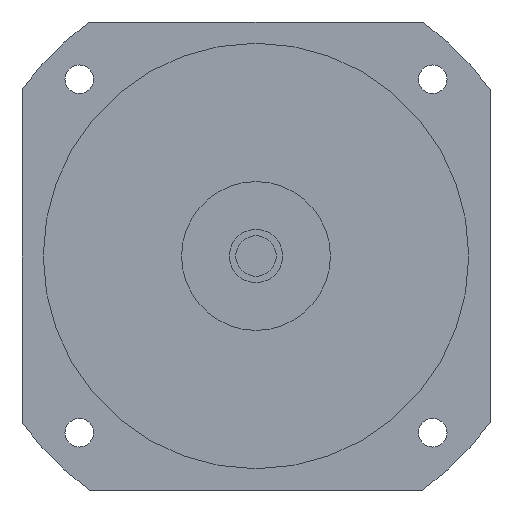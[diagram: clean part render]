
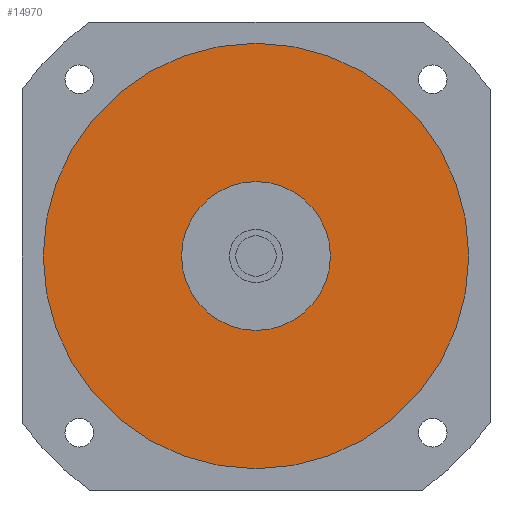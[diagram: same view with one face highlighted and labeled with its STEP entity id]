
A CAD part, left-side view. The second image highlights one B-rep face of the part: STEP entity #14970.
In plain terms, the highlighted planar face has unit normal (-1, 0, 0) as drawn and (0, 0, -1) by its records, which use the part's own axes.
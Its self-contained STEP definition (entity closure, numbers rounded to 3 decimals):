
#14390=CARTESIAN_POINT('',(100.,0.,-54.7));
#14400=VERTEX_POINT('',#14390);
#14490=CARTESIAN_POINT('',(-100.,0.,-54.7));
#14500=VERTEX_POINT('',#14490);
#14530=CARTESIAN_POINT('',(0.,0.,
-54.7));
#14540=DIRECTION('',(0.,0.,1.));
#14550=DIRECTION('',(0.,1.,0.));
#14560=AXIS2_PLACEMENT_3D('',#14530,#14540,#14550);
#14570=CIRCLE('',#14560,100.);
#14580=CARTESIAN_POINT('',(0.,100.,-54.7));
#14590=VERTEX_POINT('',#14580);
#14600=EDGE_CURVE('',#14590,#14500,#14570,.T.);
#14620=EDGE_CURVE('',#14400,#14590,#14570,.T.);
#14670=CARTESIAN_POINT('',(0.,0.,
-54.7));
#14680=DIRECTION('',(0.,0.,1.));
#14690=DIRECTION('',(-1.,0.,0.));
#14700=AXIS2_PLACEMENT_3D('',#14670,#14680,#14690);
#14710=PLANE('',#14700);
#14720=CARTESIAN_POINT('',(0.,0.,
-54.7));
#14730=DIRECTION('',(0.,0.,1.));
#14740=DIRECTION('',(0.,1.,0.));
#14750=AXIS2_PLACEMENT_3D('',#14720,#14730,#14740);
#14760=CIRCLE('',#14750,35.);
#14770=CARTESIAN_POINT('',(-35.,0.,-54.7));
#14780=VERTEX_POINT('',#14770);
#14790=CARTESIAN_POINT('',(35.,0.,-54.7));
#14800=VERTEX_POINT('',#14790);
#14810=EDGE_CURVE('',#14780,#14800,#14760,.T.);
#14820=ORIENTED_EDGE('',*,*,#14810,.T.);
#14830=CARTESIAN_POINT('',(0.,35.,-54.7));
#14840=VERTEX_POINT('',#14830);
#14850=EDGE_CURVE('',#14840,#14780,#14760,.T.);
#14860=ORIENTED_EDGE('',*,*,#14850,.T.);
#14870=EDGE_CURVE('',#14800,#14840,#14760,.T.);
#14880=ORIENTED_EDGE('',*,*,#14870,.T.);
#14890=EDGE_LOOP('',(#14880,#14860,#14820));
#14900=FACE_BOUND('',#14890,.T.);
#14910=ORIENTED_EDGE('',*,*,#14600,.F.);
#14920=EDGE_CURVE('',#14500,#14400,#14570,.T.);
#14930=ORIENTED_EDGE('',*,*,#14920,.F.);
#14940=ORIENTED_EDGE('',*,*,#14620,.F.);
#14950=EDGE_LOOP('',(#14940,#14930,#14910));
#14960=FACE_OUTER_BOUND('',#14950,.T.);
#14970=ADVANCED_FACE('',(#14900,#14960),#14710,.F.);
